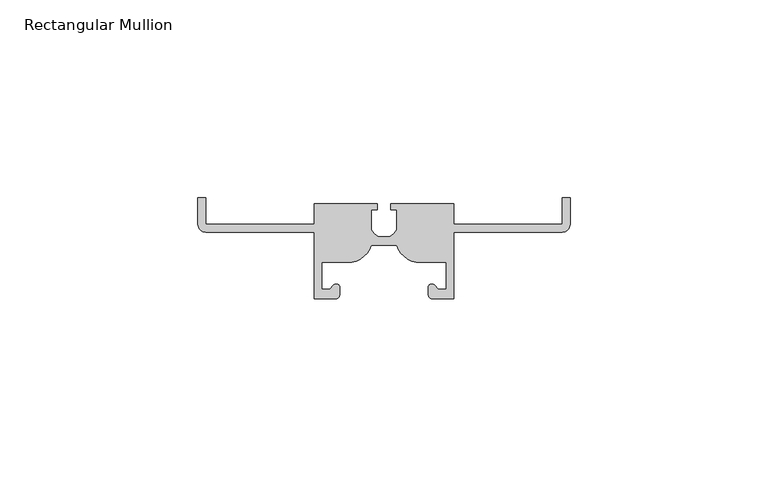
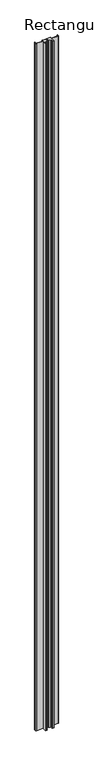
"""IFC4 building model written with IfcOpenShell, lengths in millimetres: member geometry, Rectangular Mullion : NLRS_21_CWM_drager LD.0240 - rechts_Storax."""

import ifcopenshell
import ifcopenshell.guid

model = None  # the IFC model being written
_history = None  # IfcOwnerHistory: only IFC2X3 demands one
_inside = {}  # id of a spatial element -> (the spatial element, [elements in it])
_under = {}  # id of a project, library or spatial element -> (it, [spatial elements below it])
_declared = {}  # id of a project -> (the project, [libraries it declares])
_typed = {}  # id of a type object -> (the type object, [elements of that type])
_made_of = {}  # id of a material, layer set ... -> (it, [elements and type objects made of it])


def new_model(schema):
    """Start an empty IFC model of exactly this schema.

    Asked for "IFC4X3", IfcOpenShell would pick the latest addendum, in which some entities
    have other attributes; the version numbers below select the first issue.
    IFC2X3 requires an IfcOwnerHistory on every rooted entity: one is made here for all.
    """
    global model, _history
    if schema == "IFC4X3":
        model = ifcopenshell.file(schema_version=(4, 3, 0, 0))
    else:
        model = ifcopenshell.file(schema=schema)
    _inside.clear()
    _under.clear()
    _declared.clear()
    _typed.clear()
    _made_of.clear()
    _history = None
    if model.schema == "IFC2X3":
        org = make("IfcOrganization", Name="unknown")
        user = make(
            "IfcPersonAndOrganization",
            ThePerson=make("IfcPerson", FamilyName="unknown"),
            TheOrganization=org,
        )
        app = make(
            "IfcApplication",
            ApplicationDeveloper=org,
            Version="unknown",
            ApplicationFullName="unknown",
            ApplicationIdentifier="unknown",
        )
        _history = make(
            "IfcOwnerHistory",
            OwningUser=user,
            OwningApplication=app,
            ChangeAction="ADDED",
            CreationDate=0,
        )
    return model


def make(cls, **values):
    """One entity of the class cls with the attributes given. An attribute that is None is left unset."""
    return model.create_entity(
        cls, **{name: value for name, value in values.items() if value is not None}
    )


def rooted(cls, **values):
    """An entity with a GlobalId (a new one), such as an element, a storey or a relation."""
    return make(cls, GlobalId=ifcopenshell.guid.new(), OwnerHistory=_history, **values)


def si_unit(unit_type, name, prefix=None):
    """IfcSIUnit, for example si_unit("LENGTHUNIT", "METRE", prefix="MILLI")."""
    return make("IfcSIUnit", UnitType=unit_type, Prefix=prefix, Name=name)


def assignment(units):
    """IfcUnitAssignment: the units of a project."""
    return None if units is None else make("IfcUnitAssignment", Units=units)


def point(xyz):
    """IfcCartesianPoint."""
    return None if xyz is None else make("IfcCartesianPoint", Coordinates=xyz)


def direction(xyz):
    """IfcDirection."""
    return None if xyz is None else make("IfcDirection", DirectionRatios=xyz)


def frame(location, z_axis=None, x_axis=None):
    """IfcAxis2Placement3D, a coordinate frame: its origin and axes. An axis left out is left unset."""
    return make(
        "IfcAxis2Placement3D",
        Location=point(location),
        Axis=direction(z_axis),
        RefDirection=direction(x_axis),
    )


def frame_2d(location, x_axis=None):
    """IfcAxis2Placement2D, a coordinate frame in the plane: its origin and x axis."""
    return make(
        "IfcAxis2Placement2D", Location=point(location), RefDirection=direction(x_axis)
    )


def origin():
    """The frame at (0, 0, 0) with its axes left unset."""
    return frame((0.0, 0.0, 0.0))


def place(relative_to, where):
    """IfcLocalPlacement: puts the frame where relative to a parent placement (None: the world)."""
    return make(
        "IfcLocalPlacement", PlacementRelTo=relative_to, RelativePlacement=where
    )


def context(
    kind, dimensions, precision=None, world=None, true_north=None, identifier=None
):
    """IfcGeometricRepresentationContext, for example the 3D "Model" context."""
    return make(
        "IfcGeometricRepresentationContext",
        ContextIdentifier=identifier,
        ContextType=kind,
        CoordinateSpaceDimension=dimensions,
        Precision=precision,
        WorldCoordinateSystem=world,
        TrueNorth=true_north,
    )


def project(units=None, contexts=None):
    """IfcProject with its units and contexts."""
    return rooted(
        "IfcProject",
        Name="project",
        RepresentationContexts=contexts,
        UnitsInContext=assignment(units),
    )


def spatial(cls, under=None, at=None, **own):
    """A site, building, storey or space (cls), placed at a placement, below another one or the project."""
    s = rooted(cls, ObjectPlacement=at, **own)
    if under is not None:
        _under.setdefault(under.id(), (under, []))[1].append(s)
    return s


def polyline(points):
    """IfcPolyline through the points."""
    return make("IfcPolyline", Points=[point(p) for p in points])


def circle_curve(where, radius):
    """IfcCircle in the frame where."""
    return make("IfcCircle", Position=where, Radius=radius)


def trimmed(basis, trim1, trim2, sense, master):
    """IfcTrimmedCurve: the piece of a basis curve between two trims."""
    return make(
        "IfcTrimmedCurve",
        BasisCurve=basis,
        Trim1=trim1,
        Trim2=trim2,
        SenseAgreement=sense,
        MasterRepresentation=master,
    )


def segment(curve, same_sense, transition):
    """IfcCompositeCurveSegment."""
    return make(
        "IfcCompositeCurveSegment",
        Transition=transition,
        SameSense=same_sense,
        ParentCurve=curve,
    )


def composite_curve(segments, self_intersect=None):
    """IfcCompositeCurve: segments joined end to end."""
    return make("IfcCompositeCurve", Segments=segments, SelfIntersect=self_intersect)


def outline(outer, holes=None, kind="AREA"):
    """IfcArbitraryClosedProfileDef: a profile drawn as a closed curve; with holes, ...WithVoids."""
    if holes is None:
        return make("IfcArbitraryClosedProfileDef", ProfileType=kind, OuterCurve=outer)
    return make(
        "IfcArbitraryProfileDefWithVoids",
        ProfileType=kind,
        OuterCurve=outer,
        InnerCurves=holes,
    )


def extrude(swept, where, along, depth):
    """IfcExtrudedAreaSolid: the profile swept, set in the frame where, extruded along a direction by depth."""
    return make(
        "IfcExtrudedAreaSolid",
        SweptArea=swept,
        Position=where,
        ExtrudedDirection=direction(along),
        Depth=depth,
    )


def shape(context_of_items, identifier, shape_type, items):
    """IfcShapeRepresentation: the items that make up one representation, for example the "Body"."""
    return make(
        "IfcShapeRepresentation",
        ContextOfItems=context_of_items,
        RepresentationIdentifier=identifier,
        RepresentationType=shape_type,
        Items=items,
    )


def source(mapping_origin, context_of_items, identifier, shape_type, items):
    """IfcRepresentationMap: a shape defined once, which mapped items show again and again."""
    return make(
        "IfcRepresentationMap",
        MappingOrigin=mapping_origin,
        MappedRepresentation=shape(context_of_items, identifier, shape_type, items),
    )


def transform(
    local_origin,
    x_axis=None,
    y_axis=None,
    z_axis=None,
    scale=None,
    scale2=None,
    scale3=None,
    uniform=True,
):
    """IfcCartesianTransformationOperator3D, or its non-uniform kind. x_axis, y_axis, z_axis: its Axis1, 2, 3."""
    if uniform:
        return make(
            "IfcCartesianTransformationOperator3D",
            Axis1=direction(x_axis),
            Axis2=direction(y_axis),
            LocalOrigin=point(local_origin),
            Scale=scale,
            Axis3=direction(z_axis),
        )
    return make(
        "IfcCartesianTransformationOperator3DnonUniform",
        Axis1=direction(x_axis),
        Axis2=direction(y_axis),
        LocalOrigin=point(local_origin),
        Scale=scale,
        Axis3=direction(z_axis),
        Scale2=scale2,
        Scale3=scale3,
    )


def mapped(mapping_source, mapping_target):
    """IfcMappedItem: shows the shape of a source again, moved by a transform."""
    return make(
        "IfcMappedItem", MappingSource=mapping_source, MappingTarget=mapping_target
    )


def made_of(thing, what):
    """Note that an element or type object is made of a material, layer set ...; save() writes the relation."""
    if what is not None:
        _made_of.setdefault(what.id(), (what, []))[1].append(thing)
    return thing


def element(
    cls,
    number,
    at=None,
    inside=None,
    cuts=None,
    type_object=None,
    material=None,
    context=None,
    identifier="Body",
    shape_type=None,
    held_by="IfcProductDefinitionShape",
    body=None,
    shapes=None,
    **own,
):
    """One element of the class cls, such as IfcWall. Its Tag is "e" and its number.

    at: its placement. inside: the storey or other place that contains it. cuts: it is an
    opening in that element (IfcRelVoidsElement). A single representation is given by context,
    identifier, shape_type and body (its items); several are given by shapes. held_by: the class
    of the entity that holds the representations. save() writes the other relations.
    """
    e = rooted(cls, Tag="e%d" % number, ObjectPlacement=at, **own)
    if body is not None:
        shapes = [shape(context, identifier, shape_type, body)]
    if shapes is not None:
        e.Representation = make(held_by, Representations=shapes)
    if inside is not None:
        _inside.setdefault(inside.id(), (inside, []))[1].append(e)
    if cuts is not None:
        rooted(
            "IfcRelVoidsElement", RelatingBuildingElement=cuts, RelatedOpeningElement=e
        )
    if type_object is not None:
        _typed.setdefault(type_object.id(), (type_object, []))[1].append(e)
    return made_of(e, material)


def aggregate(whole, parts):
    """IfcRelAggregates: a whole, such as a stair, and the parts it consists of."""
    return rooted("IfcRelAggregates", RelatingObject=whole, RelatedObjects=parts)


def save(model, path):
    """Write the relations noted so far, then the file.

    IfcRelAggregates (storeys below a building ...), IfcRelContainedInSpatialStructure (elements
    in a storey), IfcRelDefinesByType, IfcRelAssociatesMaterial and IfcRelDeclares: one each for
    every whole, place, type object, material and project.
    """
    for whole, parts in _under.values():
        aggregate(whole, parts)
    for where, things in _inside.values():
        rooted(
            "IfcRelContainedInSpatialStructure",
            RelatedElements=things,
            RelatingStructure=where,
        )
    for kind, things in _typed.values():
        rooted("IfcRelDefinesByType", RelatedObjects=things, RelatingType=kind)
    for what, things in _made_of.values():
        rooted("IfcRelAssociatesMaterial", RelatedObjects=things, RelatingMaterial=what)
    for by, libraries in _declared.values():
        rooted("IfcRelDeclares", RelatingContext=by, RelatedDefinitions=libraries)
    model.write(path)


def rectangular_mullion_ea9d012c(model_context):
    return source(origin(), model_context, "Body", "SweptSolid", [
        extrude(outline(composite_curve([segment(polyline([(-144.0, -7.6257936), (-144.0, -1.0), (-141.9912581, -1.0), (-141.9912581, -7.611542), (-114.6599764, -7.611542), (-114.6599764, -2.5065082), (-98.6945192, -2.5065082), (-98.6945192, -4.0065082), (-100.1741489, -4.0065082), (-100.1741489, -9.0065082)]), True, "CONTINUOUS"), segment(trimmed(circle_curve(frame_2d((-97.0039792, -7.6048296)), 3.4662197), [point((-100.1741489, -9.0065082))], [point((-98.4056577, -10.7749993))], True, "CARTESIAN"), True, "CONTINUOUS"), segment(polyline([(-98.4056577, -10.7749993), (-95.5943423, -10.7749993)]), True, "CONTINUOUS"), segment(trimmed(circle_curve(frame_2d((-96.9960208, -7.6048296)), 3.4662197), [point((-95.5943423, -10.7749993))], [point((-93.8258511, -9.0065082))], True, "CARTESIAN"), True, "CONTINUOUS"), segment(polyline([(-93.8258511, -9.0065082), (-93.8258511, -4.0065082), (-95.3054808, -4.0065082), (-95.3054808, -2.5065082), (-79.3400236, -2.5065082), (-79.3400236, -7.611542), (-52.0087419, -7.611542), (-52.0087419, -1.0), (-50.0, -1.0), (-50.0, -7.6257936)]), True, "CONTINUOUS"), segment(trimmed(circle_curve(frame_2d((-52.0087419, -7.6257936)), 2.0087419), [point((-50.0, -7.6257936))], [point((-52.0087419, -9.6345355))], False, "CARTESIAN"), True, "CONTINUOUS"), segment(polyline([(-52.0087419, -9.6345355), (-79.3400236, -9.6345355), (-79.3400236, -26.5), (-84.6531539, -26.5)]), True, "CONTINUOUS"), segment(trimmed(circle_curve(frame_2d((-84.6531539, -25.3135005)), 1.1864995), [point((-84.6531539, -26.5))], [point((-85.8396534, -25.3135005))], False, "CARTESIAN"), True, "CONTINUOUS"), segment(polyline([(-85.8396534, -25.3135005), (-85.8396534, -23.3009057)]), True, "CONTINUOUS"), segment(trimmed(circle_curve(frame_2d((-84.8772851, -23.8515635)), 1.1087726), [point((-85.8396534, -23.3009057))], [point((-84.1385729, -23.0247134))], False, "CARTESIAN"), True, "CONTINUOUS"), segment(polyline([(-84.1385729, -23.0247134), (-83.2490245, -24.1232143), (-81.3265874, -24.1232143), (-81.3265874, -17.2531745), (-88.8631802, -17.2531745)]), True, "CONTINUOUS"), segment(trimmed(circle_curve(frame_2d((-87.632073, -10.8255058)), 6.5445053), [point((-88.8631802, -17.2531745))], [point((-93.8258511, -12.9391905))], False, "CARTESIAN"), True, "CONTINUOUS"), segment(polyline([(-93.8258511, -12.9391905), (-100.1741489, -12.9391905)]), True, "CONTINUOUS"), segment(trimmed(circle_curve(frame_2d((-106.367927, -10.8255058)), 6.5445053), [point((-100.1741489, -12.9391905))], [point((-105.1368198, -17.2531745))], False, "CARTESIAN"), True, "CONTINUOUS"), segment(polyline([(-105.1368198, -17.2531745), (-112.6734126, -17.2531745), (-112.6734126, -24.1232143), (-110.7509755, -24.1232143), (-109.8614271, -23.0247134)]), True, "CONTINUOUS"), segment(trimmed(circle_curve(frame_2d((-109.1227149, -23.8515635)), 1.1087726), [point((-109.8614271, -23.0247134))], [point((-108.1603466, -23.3009057))], False, "CARTESIAN"), True, "CONTINUOUS"), segment(polyline([(-108.1603466, -23.3009057), (-108.1603466, -25.3135005)]), True, "CONTINUOUS"), segment(trimmed(circle_curve(frame_2d((-109.3468461, -25.3135005)), 1.1864995), [point((-108.1603466, -25.3135005))], [point((-109.3468461, -26.5))], False, "CARTESIAN"), True, "CONTINUOUS"), segment(polyline([(-109.3468461, -26.5), (-114.6599764, -26.5), (-114.6599764, -9.6345355), (-141.9912581, -9.6345355)]), True, "CONTINUOUS"), segment(trimmed(circle_curve(frame_2d((-141.9912581, -7.6257936)), 2.0087419), [point((-141.9912581, -9.6345355))], [point((-144.0, -7.6257936))], False, "CARTESIAN"), True, "CONTINUOUS")], self_intersect=False)), frame((0.0, 0.0, -3000.0), z_axis=(0.0, 0.0, 1.0), x_axis=(1.0, 0.0, 0.0)), (0.0, 0.0, 1.0), 3000.0),
    ])


if __name__ == "__main__":
    model = new_model("IFC4")
    model_context = context("Model", 3, world=origin())
    ifc_project = project(units=[si_unit("LENGTHUNIT", "METRE", prefix="MILLI")], contexts=[model_context])
    site = spatial("IfcSite", under=ifc_project)
    building = spatial("IfcBuilding", under=site)
    placement = place(None, origin())
    rectangular_mullion_shape = rectangular_mullion_ea9d012c(model_context)
    element("IfcMember", 1, ObjectType="Rectangular Mullion : NLRS_21_CWM_drager LD.0240 - rechts_Storax", at=placement, inside=building, context=model_context, shape_type="MappedRepresentation", body=[
        mapped(rectangular_mullion_shape, transform((0.0, 0.0, 0.0), x_axis=(1.0, 0.0, 0.0), y_axis=(0.0, 1.0, 0.0), z_axis=(0.0, 0.0, 1.0))),
    ])
    save(model, "model.ifc")
